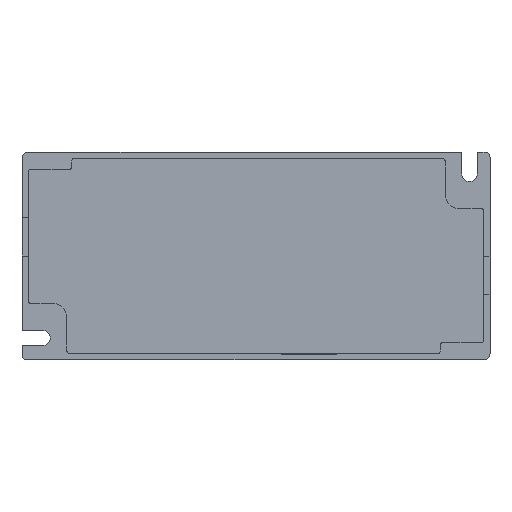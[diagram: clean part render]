
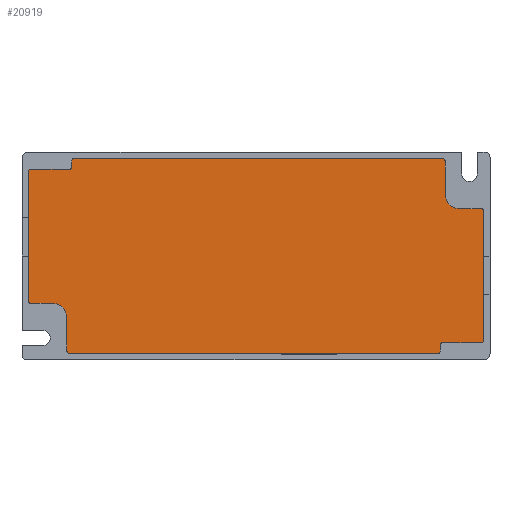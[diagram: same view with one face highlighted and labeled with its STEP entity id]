
A CAD part, front view. The second image highlights one B-rep face of the part: STEP entity #20919.
In plain terms, the highlighted planar face has unit normal (0, -1, 0).
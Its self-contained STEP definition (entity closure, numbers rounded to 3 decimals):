
#19486=CARTESIAN_POINT('',(-38.7,-5.5,-19.7));
#19487=DIRECTION('',(0.,1.,0.));
#19488=DIRECTION('',(0.,0.,-1.));
#19489=AXIS2_PLACEMENT_3D('',#19486,#19487,#19488);
#19494=DIRECTION('',(0.,0.,1.));
#19495=VECTOR('',#19494,6.9);
#19496=CARTESIAN_POINT('',(-39.2,-5.5,-19.7));
#19497=LINE('',#19496,#19495);
#19501=CARTESIAN_POINT('',(-42.2,-5.5,-12.8));
#19502=DIRECTION('',(0.,-1.,0.));
#19503=DIRECTION('',(1.,0.,0.));
#19504=AXIS2_PLACEMENT_3D('',#19501,#19502,#19503);
#19509=DIRECTION('',(-1.,0.,0.));
#19510=VECTOR('',#19509,4.5);
#19511=CARTESIAN_POINT('',(-42.2,-5.5,-9.8));
#19512=LINE('',#19511,#19510);
#19516=CARTESIAN_POINT('',(-46.7,-5.5,-9.3));
#19517=DIRECTION('',(0.,1.,0.));
#19518=DIRECTION('',(0.,0.,-1.));
#19519=AXIS2_PLACEMENT_3D('',#19516,#19517,#19518);
#19524=DIRECTION('',(0.,0.,1.));
#19525=VECTOR('',#19524,26.8);
#19526=CARTESIAN_POINT('',(-47.2,-5.5,-9.3));
#19527=LINE('',#19526,#19525);
#19531=CARTESIAN_POINT('',(-46.7,-5.5,17.5));
#19532=DIRECTION('',(0.,1.,0.));
#19533=DIRECTION('',(-1.,0.,0.));
#19534=AXIS2_PLACEMENT_3D('',#19531,#19532,#19533);
#19539=DIRECTION('',(1.,0.,0.));
#19540=VECTOR('',#19539,8.);
#19541=CARTESIAN_POINT('',(-46.7,-5.5,18.));
#19542=LINE('',#19541,#19540);
#19546=CARTESIAN_POINT('',(-38.7,-5.5,18.5));
#19547=DIRECTION('',(0.,-1.,0.));
#19548=DIRECTION('',(0.,0.,-1.));
#19549=AXIS2_PLACEMENT_3D('',#19546,#19547,#19548);
#19554=DIRECTION('',(0.,0.,1.));
#19555=VECTOR('',#19554,1.2);
#19556=CARTESIAN_POINT('',(-38.2,-5.5,18.5));
#19557=LINE('',#19556,#19555);
#19561=CARTESIAN_POINT('',(-37.7,-5.5,19.7));
#19562=DIRECTION('',(0.,1.,0.));
#19563=DIRECTION('',(-1.,0.,0.));
#19564=AXIS2_PLACEMENT_3D('',#19561,#19562,#19563);
#19569=DIRECTION('',(1.,0.,0.));
#19570=VECTOR('',#19569,76.4);
#19571=CARTESIAN_POINT('',(-37.7,-5.5,20.2));
#19572=LINE('',#19571,#19570);
#19576=CARTESIAN_POINT('',(38.7,-5.5,19.7));
#19577=DIRECTION('',(0.,1.,0.));
#19578=DIRECTION('',(0.,0.,1.));
#19579=AXIS2_PLACEMENT_3D('',#19576,#19577,#19578);
#19584=DIRECTION('',(0.,0.,-1.));
#19585=VECTOR('',#19584,6.9);
#19586=CARTESIAN_POINT('',(39.2,-5.5,19.7));
#19587=LINE('',#19586,#19585);
#19591=CARTESIAN_POINT('',(42.2,-5.5,12.8));
#19592=DIRECTION('',(0.,-1.,0.));
#19593=DIRECTION('',(-1.,0.,0.));
#19594=AXIS2_PLACEMENT_3D('',#19591,#19592,#19593);
#19599=DIRECTION('',(1.,0.,0.));
#19600=VECTOR('',#19599,4.5);
#19601=CARTESIAN_POINT('',(42.2,-5.5,9.8));
#19602=LINE('',#19601,#19600);
#19606=CARTESIAN_POINT('',(46.7,-5.5,9.3));
#19607=DIRECTION('',(0.,1.,0.));
#19608=DIRECTION('',(0.,0.,1.));
#19609=AXIS2_PLACEMENT_3D('',#19606,#19607,#19608);
#19614=DIRECTION('',(0.,0.,-1.));
#19615=VECTOR('',#19614,26.8);
#19616=CARTESIAN_POINT('',(47.2,-5.5,9.3));
#19617=LINE('',#19616,#19615);
#19621=CARTESIAN_POINT('',(46.7,-5.5,-17.5));
#19622=DIRECTION('',(0.,1.,0.));
#19623=DIRECTION('',(1.,0.,0.));
#19624=AXIS2_PLACEMENT_3D('',#19621,#19622,#19623);
#19629=DIRECTION('',(-1.,0.,0.));
#19630=VECTOR('',#19629,8.);
#19631=CARTESIAN_POINT('',(46.7,-5.5,-18.));
#19632=LINE('',#19631,#19630);
#19636=CARTESIAN_POINT('',(38.7,-5.5,-18.5));
#19637=DIRECTION('',(0.,-1.,0.));
#19638=DIRECTION('',(0.,0.,1.));
#19639=AXIS2_PLACEMENT_3D('',#19636,#19637,#19638);
#19644=DIRECTION('',(0.,0.,-1.));
#19645=VECTOR('',#19644,1.2);
#19646=CARTESIAN_POINT('',(38.2,-5.5,-18.5));
#19647=LINE('',#19646,#19645);
#19651=CARTESIAN_POINT('',(37.7,-5.5,-19.7));
#19652=DIRECTION('',(0.,1.,0.));
#19653=DIRECTION('',(1.,0.,0.));
#19654=AXIS2_PLACEMENT_3D('',#19651,#19652,#19653);
#19659=DIRECTION('',(-1.,0.,0.));
#19660=VECTOR('',#19659,76.4);
#19661=CARTESIAN_POINT('',(37.7,-5.5,-20.2));
#19662=LINE('',#19661,#19660);
#20648=CARTESIAN_POINT('',(-38.7,-5.5,-20.2));
#20649=CARTESIAN_POINT('',(-39.2,-5.5,-19.7));
#20650=VERTEX_POINT('',#20648);
#20651=VERTEX_POINT('',#20649);
#20652=CARTESIAN_POINT('',(-39.2,-5.5,-12.8));
#20653=VERTEX_POINT('',#20652);
#20654=CARTESIAN_POINT('',(-42.2,-5.5,-9.8));
#20655=VERTEX_POINT('',#20654);
#20656=CARTESIAN_POINT('',(-46.7,-5.5,-9.8));
#20657=VERTEX_POINT('',#20656);
#20658=CARTESIAN_POINT('',(-47.2,-5.5,-9.3));
#20659=VERTEX_POINT('',#20658);
#20660=CARTESIAN_POINT('',(-47.2,-5.5,17.5));
#20661=VERTEX_POINT('',#20660);
#20662=CARTESIAN_POINT('',(-46.7,-5.5,18.));
#20663=VERTEX_POINT('',#20662);
#20664=CARTESIAN_POINT('',(-38.7,-5.5,18.));
#20665=VERTEX_POINT('',#20664);
#20666=CARTESIAN_POINT('',(-38.2,-5.5,18.5));
#20667=VERTEX_POINT('',#20666);
#20668=CARTESIAN_POINT('',(-38.2,-5.5,19.7));
#20669=VERTEX_POINT('',#20668);
#20670=CARTESIAN_POINT('',(-37.7,-5.5,20.2));
#20671=VERTEX_POINT('',#20670);
#20672=CARTESIAN_POINT('',(38.7,-5.5,20.2));
#20673=VERTEX_POINT('',#20672);
#20674=CARTESIAN_POINT('',(39.2,-5.5,19.7));
#20675=VERTEX_POINT('',#20674);
#20676=CARTESIAN_POINT('',(39.2,-5.5,12.8));
#20677=VERTEX_POINT('',#20676);
#20678=CARTESIAN_POINT('',(42.2,-5.5,9.8));
#20679=VERTEX_POINT('',#20678);
#20680=CARTESIAN_POINT('',(46.7,-5.5,9.8));
#20681=VERTEX_POINT('',#20680);
#20682=CARTESIAN_POINT('',(47.2,-5.5,9.3));
#20683=VERTEX_POINT('',#20682);
#20684=CARTESIAN_POINT('',(47.2,-5.5,-17.5));
#20685=VERTEX_POINT('',#20684);
#20686=CARTESIAN_POINT('',(46.7,-5.5,-18.));
#20687=VERTEX_POINT('',#20686);
#20688=CARTESIAN_POINT('',(38.7,-5.5,-18.));
#20689=VERTEX_POINT('',#20688);
#20690=CARTESIAN_POINT('',(38.2,-5.5,-18.5));
#20691=VERTEX_POINT('',#20690);
#20692=CARTESIAN_POINT('',(38.2,-5.5,-19.7));
#20693=VERTEX_POINT('',#20692);
#20694=CARTESIAN_POINT('',(37.7,-5.5,-20.2));
#20695=VERTEX_POINT('',#20694);
#20864=CARTESIAN_POINT('',(0.,-5.5,0.));
#20865=DIRECTION('',(0.,-1.,0.));
#20866=DIRECTION('',(-1.,0.,0.));
#20867=AXIS2_PLACEMENT_3D('',#20864,#20865,#20866);
#20868=PLANE('',#20867);
#20870=ORIENTED_EDGE('',*,*,#20869,.T.);
#20872=ORIENTED_EDGE('',*,*,#20871,.T.);
#20874=ORIENTED_EDGE('',*,*,#20873,.T.);
#20876=ORIENTED_EDGE('',*,*,#20875,.T.);
#20878=ORIENTED_EDGE('',*,*,#20877,.T.);
#20880=ORIENTED_EDGE('',*,*,#20879,.T.);
#20882=ORIENTED_EDGE('',*,*,#20881,.T.);
#20884=ORIENTED_EDGE('',*,*,#20883,.T.);
#20886=ORIENTED_EDGE('',*,*,#20885,.T.);
#20888=ORIENTED_EDGE('',*,*,#20887,.T.);
#20890=ORIENTED_EDGE('',*,*,#20889,.T.);
#20892=ORIENTED_EDGE('',*,*,#20891,.T.);
#20894=ORIENTED_EDGE('',*,*,#20893,.T.);
#20896=ORIENTED_EDGE('',*,*,#20895,.T.);
#20898=ORIENTED_EDGE('',*,*,#20897,.T.);
#20900=ORIENTED_EDGE('',*,*,#20899,.T.);
#20902=ORIENTED_EDGE('',*,*,#20901,.T.);
#20904=ORIENTED_EDGE('',*,*,#20903,.T.);
#20906=ORIENTED_EDGE('',*,*,#20905,.T.);
#20908=ORIENTED_EDGE('',*,*,#20907,.T.);
#20910=ORIENTED_EDGE('',*,*,#20909,.T.);
#20912=ORIENTED_EDGE('',*,*,#20911,.T.);
#20914=ORIENTED_EDGE('',*,*,#20913,.T.);
#20916=ORIENTED_EDGE('',*,*,#20915,.T.);
#20917=EDGE_LOOP('',(#20870,#20872,#20874,#20876,#20878,#20880,#20882,#20884,
#20886,#20888,#20890,#20892,#20894,#20896,#20898,#20900,#20902,#20904,#20906,
#20908,#20910,#20912,#20914,#20916));
#20918=FACE_OUTER_BOUND('',#20917,.F.);
#20919=ADVANCED_FACE('',(#20918),#20868,.T.);
#19490=CIRCLE('',#19489,0.5);
#19505=CIRCLE('',#19504,3.);
#19520=CIRCLE('',#19519,0.5);
#19535=CIRCLE('',#19534,0.5);
#19550=CIRCLE('',#19549,0.5);
#19565=CIRCLE('',#19564,0.5);
#19580=CIRCLE('',#19579,0.5);
#19595=CIRCLE('',#19594,3.);
#19610=CIRCLE('',#19609,0.5);
#19625=CIRCLE('',#19624,0.5);
#19640=CIRCLE('',#19639,0.5);
#19655=CIRCLE('',#19654,0.5);
#20869=EDGE_CURVE('',#20650,#20651,#19490,.T.);
#20871=EDGE_CURVE('',#20651,#20653,#19497,.T.);
#20873=EDGE_CURVE('',#20653,#20655,#19505,.T.);
#20875=EDGE_CURVE('',#20655,#20657,#19512,.T.);
#20877=EDGE_CURVE('',#20657,#20659,#19520,.T.);
#20879=EDGE_CURVE('',#20659,#20661,#19527,.T.);
#20881=EDGE_CURVE('',#20661,#20663,#19535,.T.);
#20883=EDGE_CURVE('',#20663,#20665,#19542,.T.);
#20885=EDGE_CURVE('',#20665,#20667,#19550,.T.);
#20887=EDGE_CURVE('',#20667,#20669,#19557,.T.);
#20889=EDGE_CURVE('',#20669,#20671,#19565,.T.);
#20891=EDGE_CURVE('',#20671,#20673,#19572,.T.);
#20893=EDGE_CURVE('',#20673,#20675,#19580,.T.);
#20895=EDGE_CURVE('',#20675,#20677,#19587,.T.);
#20897=EDGE_CURVE('',#20677,#20679,#19595,.T.);
#20899=EDGE_CURVE('',#20679,#20681,#19602,.T.);
#20901=EDGE_CURVE('',#20681,#20683,#19610,.T.);
#20903=EDGE_CURVE('',#20683,#20685,#19617,.T.);
#20905=EDGE_CURVE('',#20685,#20687,#19625,.T.);
#20907=EDGE_CURVE('',#20687,#20689,#19632,.T.);
#20909=EDGE_CURVE('',#20689,#20691,#19640,.T.);
#20911=EDGE_CURVE('',#20691,#20693,#19647,.T.);
#20913=EDGE_CURVE('',#20693,#20695,#19655,.T.);
#20915=EDGE_CURVE('',#20695,#20650,#19662,.T.);
